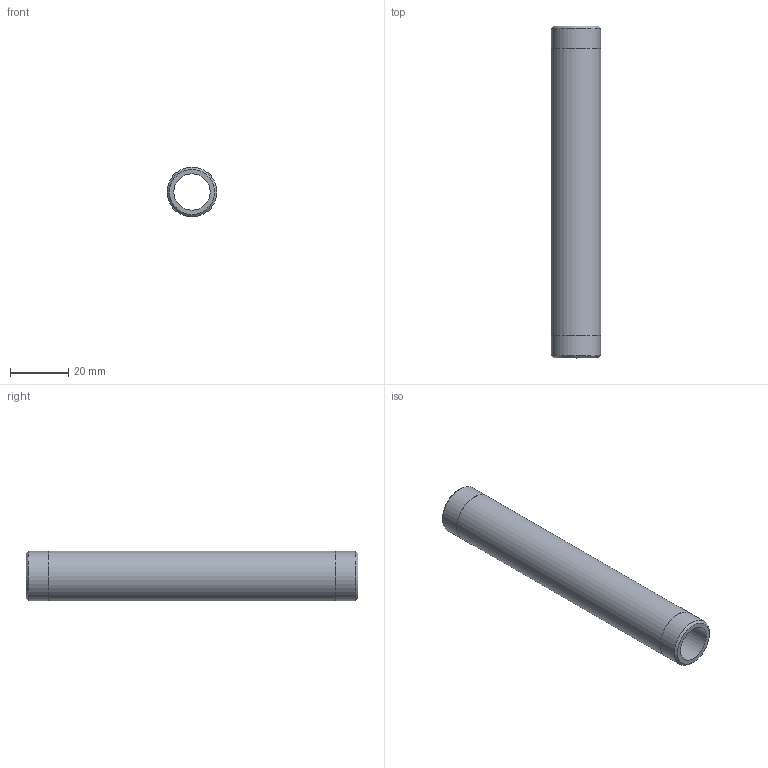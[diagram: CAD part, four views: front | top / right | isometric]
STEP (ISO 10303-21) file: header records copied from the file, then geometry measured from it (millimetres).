
FILE_DESCRIPTION(/* description */ (''),/* implementation_level */ '2;1');
FILE_NAME(/* name */ 'C:/Users/drich/Desktop/SSPN38-4-1_2 v1.step',/* time_stamp */ '2020-01-04T13:57:27-06:00',/* author */ (''),/* organization */ (''),/* preprocessor_version */ 'ST-DEVELOPER v18',/* originating_system */ 'Autodesk Translation Framework v8.12.0.6',/* authorisation */ '');
FILE_SCHEMA (('AUTOMOTIVE_DESIGN { 1 0 10303 214 3 1 1 }'));
Length unit declared in the file: inch
Products named in the file (1): SSPN38-4-1_2
Bounding box: 17.14 x 114.3 x 17.14 mm (x, y, z)
Volume: 12260.6 mm3; surface area: 10816.6 mm2
Topology: 1 solids, 1 shells, 10 faces, 24 edges, 18 vertices
Faces by surface type: cylinder 4, plane 4, cone 2
Full cylindrical faces by diameter (mm): 12.522 x1, 17.094 x2, 17.145 x1
Entity records: 353 total; most frequent: DIRECTION 64, CARTESIAN_POINT 53, ORIENTED_EDGE 48, AXIS2_PLACEMENT_3D 29, EDGE_CURVE 24, CIRCLE 18, VERTEX_POINT 18, EDGE_LOOP 14
